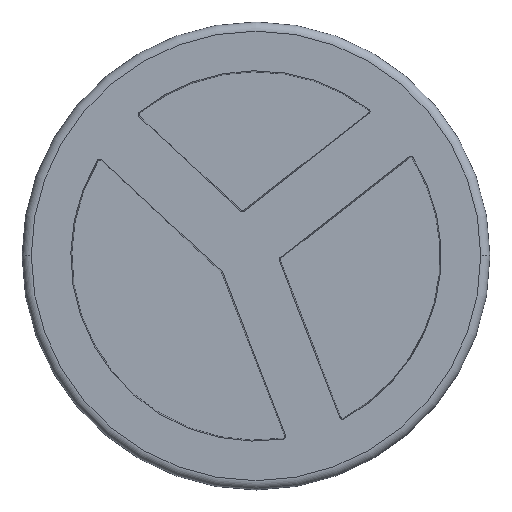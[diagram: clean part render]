
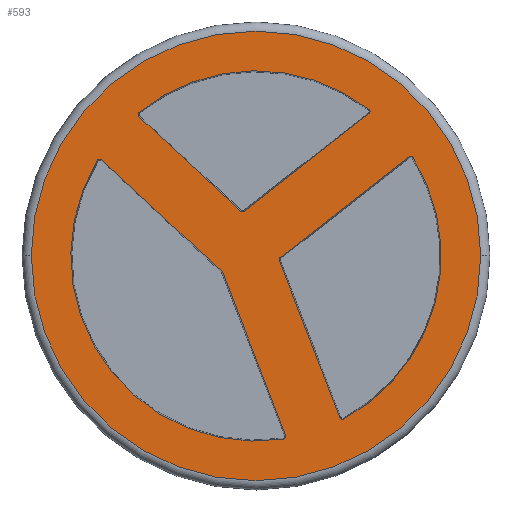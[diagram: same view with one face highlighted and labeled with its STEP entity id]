
A CAD part, top view. The second image highlights one B-rep face of the part: STEP entity #593.
In plain terms, the highlighted planar face has unit normal (0, 0, 1).
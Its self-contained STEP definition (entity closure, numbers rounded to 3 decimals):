
#97=CARTESIAN_POINT('',(0.,0.,1.5));
#98=DIRECTION('',(0.,0.,-1.));
#99=DIRECTION('',(0.148,-0.989,0.));
#100=AXIS2_PLACEMENT_3D('',#97,#98,#99);
#106=CARTESIAN_POINT('',(0.,0.,1.5));
#107=DIRECTION('',(0.,0.,-1.));
#108=DIRECTION('',(0.848,0.53,0.));
#109=AXIS2_PLACEMENT_3D('',#106,#107,#108);
#120=CARTESIAN_POINT('',(-6.251,7.677,1.5));
#121=DIRECTION('',(0.,0.,-1.));
#122=DIRECTION('',(-0.681,-0.733,0.));
#123=AXIS2_PLACEMENT_3D('',#120,#121,#122);
#133=CARTESIAN_POINT('',(-0.734,2.551,1.5));
#134=DIRECTION('',(0.,0.,-1.));
#135=DIRECTION('',(0.616,-0.788,0.));
#136=AXIS2_PLACEMENT_3D('',#133,#134,#135);
#146=CARTESIAN_POINT('',(6.04,7.844,1.5));
#147=DIRECTION('',(0.,0.,-1.));
#148=DIRECTION('',(0.61,0.792,0.));
#149=AXIS2_PLACEMENT_3D('',#146,#147,#148);
#151=CARTESIAN_POINT('',(0.,0.,1.5));
#152=DIRECTION('',(0.,0.,1.));
#153=DIRECTION('',(-1.,0.,0.));
#154=AXIS2_PLACEMENT_3D('',#151,#152,#153);
#156=CARTESIAN_POINT('',(0.,0.,1.5));
#157=DIRECTION('',(0.,0.,1.));
#158=DIRECTION('',(1.,0.,0.));
#159=AXIS2_PLACEMENT_3D('',#156,#157,#158);
#161=DIRECTION('',(0.788,0.616,0.));
#162=VECTOR('',#161,8.864);
#163=CARTESIAN_POINT('',(1.318,-0.093,1.5));
#164=LINE('',#163,#162);
#165=DIRECTION('',(-0.36,0.933,0.));
#166=VECTOR('',#165,9.115);
#167=CARTESIAN_POINT('',(4.551,-8.772,1.5));
#168=LINE('',#167,#166);
#169=CARTESIAN_POINT('',(0.,0.,1.5));
#170=DIRECTION('',(0.,0.,-1.));
#171=DIRECTION('',(-0.631,0.775,0.));
#172=AXIS2_PLACEMENT_3D('',#169,#170,#171);
#174=DIRECTION('',(-0.733,0.681,0.));
#175=VECTOR('',#174,7.53);
#176=CARTESIAN_POINT('',(-0.838,2.44,1.5));
#177=LINE('',#176,#175);
#178=DIRECTION('',(-0.788,-0.616,0.));
#179=VECTOR('',#178,8.597);
#180=CARTESIAN_POINT('',(6.134,7.724,1.5));
#181=LINE('',#180,#179);
#182=DIRECTION('',(0.36,-0.933,0.));
#183=VECTOR('',#182,9.456);
#184=CARTESIAN_POINT('',(-1.798,-0.915,1.5));
#185=LINE('',#184,#183);
#186=DIRECTION('',(0.733,-0.681,0.));
#187=VECTOR('',#186,8.928);
#188=CARTESIAN_POINT('',(-8.377,5.22,1.5));
#189=LINE('',#188,#187);
#236=CARTESIAN_POINT('',(1.412,-0.213,1.5));
#237=DIRECTION('',(0.,0.,-1.));
#238=DIRECTION('',(-0.933,-0.36,0.));
#239=AXIS2_PLACEMENT_3D('',#236,#237,#238);
#249=CARTESIAN_POINT('',(4.693,-8.717,1.5));
#250=DIRECTION('',(0.,0.,-1.));
#251=DIRECTION('',(0.474,-0.88,0.));
#252=AXIS2_PLACEMENT_3D('',#249,#250,#251);
#254=CARTESIAN_POINT('',(8.397,5.244,1.5));
#255=DIRECTION('',(0.,0.,-1.));
#256=DIRECTION('',(-0.616,0.788,0.));
#257=AXIS2_PLACEMENT_3D('',#254,#255,#256);
#267=CARTESIAN_POINT('',(-1.94,-0.969,1.5));
#268=DIRECTION('',(0.,0.,-1.));
#269=DIRECTION('',(0.681,0.733,0.));
#270=AXIS2_PLACEMENT_3D('',#267,#268,#269);
#280=CARTESIAN_POINT('',(-8.48,5.108,1.5));
#281=DIRECTION('',(0.,0.,-1.));
#282=DIRECTION('',(-0.857,0.516,0.));
#283=AXIS2_PLACEMENT_3D('',#280,#281,#282);
#285=CARTESIAN_POINT('',(1.464,-9.791,1.5));
#286=DIRECTION('',(0.,0.,-1.));
#287=DIRECTION('',(0.933,0.36,0.));
#288=AXIS2_PLACEMENT_3D('',#285,#286,#287);
#294=CARTESIAN_POINT('',(-12.2,0.,1.5));
#295=CARTESIAN_POINT('',(12.2,0.,1.5));
#296=VERTEX_POINT('',#294);
#297=VERTEX_POINT('',#295);
#310=CARTESIAN_POINT('',(-8.611,5.187,1.5));
#311=VERTEX_POINT('',#310);
#312=CARTESIAN_POINT('',(-8.377,5.22,1.5));
#313=VERTEX_POINT('',#312);
#314=CARTESIAN_POINT('',(-6.347,7.795,1.5));
#315=VERTEX_POINT('',#314);
#318=CARTESIAN_POINT('',(-6.354,7.566,1.5));
#319=VERTEX_POINT('',#318);
#321=CARTESIAN_POINT('',(-0.838,2.44,1.5));
#323=VERTEX_POINT('',#321);
#326=CARTESIAN_POINT('',(-0.641,2.431,1.5));
#327=VERTEX_POINT('',#326);
#329=CARTESIAN_POINT('',(-1.798,-0.915,1.5));
#331=VERTEX_POINT('',#329);
#334=CARTESIAN_POINT('',(-1.837,-0.858,1.5));
#335=VERTEX_POINT('',#334);
#337=CARTESIAN_POINT('',(1.318,-0.093,1.5));
#339=VERTEX_POINT('',#337);
#342=CARTESIAN_POINT('',(1.27,-0.268,1.5));
#343=VERTEX_POINT('',#342);
#346=CARTESIAN_POINT('',(6.133,7.965,1.5));
#347=VERTEX_POINT('',#346);
#348=CARTESIAN_POINT('',(6.134,7.724,1.5));
#349=VERTEX_POINT('',#348);
#351=CARTESIAN_POINT('',(8.526,5.325,1.5));
#353=VERTEX_POINT('',#351);
#356=CARTESIAN_POINT('',(8.303,5.364,1.5));
#357=VERTEX_POINT('',#356);
#362=CARTESIAN_POINT('',(4.766,-8.851,1.5));
#363=VERTEX_POINT('',#362);
#364=CARTESIAN_POINT('',(4.551,-8.772,1.5));
#365=VERTEX_POINT('',#364);
#367=CARTESIAN_POINT('',(1.486,-9.942,1.5));
#369=VERTEX_POINT('',#367);
#372=CARTESIAN_POINT('',(1.606,-9.736,1.5));
#373=VERTEX_POINT('',#372);
#548=CARTESIAN_POINT('',(0.,0.,1.5));
#549=DIRECTION('',(0.,0.,1.));
#550=DIRECTION('',(1.,0.,0.));
#551=AXIS2_PLACEMENT_3D('',#548,#549,#550);
#552=PLANE('',#551);
#554=ORIENTED_EDGE('',*,*,#553,.F.);
#556=ORIENTED_EDGE('',*,*,#555,.F.);
#557=EDGE_LOOP('',(#554,#556));
#558=FACE_OUTER_BOUND('',#557,.F.);
#560=ORIENTED_EDGE('',*,*,#559,.F.);
#562=ORIENTED_EDGE('',*,*,#561,.F.);
#564=ORIENTED_EDGE('',*,*,#563,.F.);
#566=ORIENTED_EDGE('',*,*,#565,.F.);
#567=ORIENTED_EDGE('',*,*,#471,.F.);
#569=ORIENTED_EDGE('',*,*,#568,.F.);
#570=EDGE_LOOP('',(#560,#562,#564,#566,#567,#569));
#571=FACE_BOUND('',#570,.F.);
#572=ORIENTED_EDGE('',*,*,#442,.F.);
#573=ORIENTED_EDGE('',*,*,#488,.F.);
#574=ORIENTED_EDGE('',*,*,#502,.F.);
#575=ORIENTED_EDGE('',*,*,#516,.F.);
#576=ORIENTED_EDGE('',*,*,#530,.F.);
#577=ORIENTED_EDGE('',*,*,#542,.F.);
#578=EDGE_LOOP('',(#572,#573,#574,#575,#576,#577));
#579=FACE_BOUND('',#578,.F.);
#581=ORIENTED_EDGE('',*,*,#580,.F.);
#583=ORIENTED_EDGE('',*,*,#582,.F.);
#585=ORIENTED_EDGE('',*,*,#584,.F.);
#587=ORIENTED_EDGE('',*,*,#586,.F.);
#588=ORIENTED_EDGE('',*,*,#459,.F.);
#590=ORIENTED_EDGE('',*,*,#589,.F.);
#591=EDGE_LOOP('',(#581,#583,#585,#587,#588,#590));
#592=FACE_BOUND('',#591,.F.);
#593=ADVANCED_FACE('',(#558,#571,#579,#592),#552,.T.);
#101=CIRCLE('',#100,10.052);
#110=CIRCLE('',#109,10.052);
#124=CIRCLE('',#123,0.152);
#137=CIRCLE('',#136,0.152);
#150=CIRCLE('',#149,0.152);
#155=CIRCLE('',#154,12.2);
#160=CIRCLE('',#159,12.2);
#173=CIRCLE('',#172,10.052);
#240=CIRCLE('',#239,0.152);
#253=CIRCLE('',#252,0.152);
#258=CIRCLE('',#257,0.152);
#271=CIRCLE('',#270,0.152);
#284=CIRCLE('',#283,0.152);
#289=CIRCLE('',#288,0.152);
#442=EDGE_CURVE('',#315,#347,#173,.T.);
#459=EDGE_CURVE('',#369,#311,#101,.T.);
#471=EDGE_CURVE('',#353,#363,#110,.T.);
#488=EDGE_CURVE('',#319,#315,#124,.T.);
#502=EDGE_CURVE('',#323,#319,#177,.T.);
#516=EDGE_CURVE('',#327,#323,#137,.T.);
#530=EDGE_CURVE('',#349,#327,#181,.T.);
#542=EDGE_CURVE('',#347,#349,#150,.T.);
#553=EDGE_CURVE('',#296,#297,#155,.T.);
#555=EDGE_CURVE('',#297,#296,#160,.T.);
#559=EDGE_CURVE('',#339,#357,#164,.T.);
#561=EDGE_CURVE('',#343,#339,#240,.T.);
#563=EDGE_CURVE('',#365,#343,#168,.T.);
#565=EDGE_CURVE('',#363,#365,#253,.T.);
#568=EDGE_CURVE('',#357,#353,#258,.T.);
#580=EDGE_CURVE('',#331,#373,#185,.T.);
#582=EDGE_CURVE('',#335,#331,#271,.T.);
#584=EDGE_CURVE('',#313,#335,#189,.T.);
#586=EDGE_CURVE('',#311,#313,#284,.T.);
#589=EDGE_CURVE('',#373,#369,#289,.T.);
